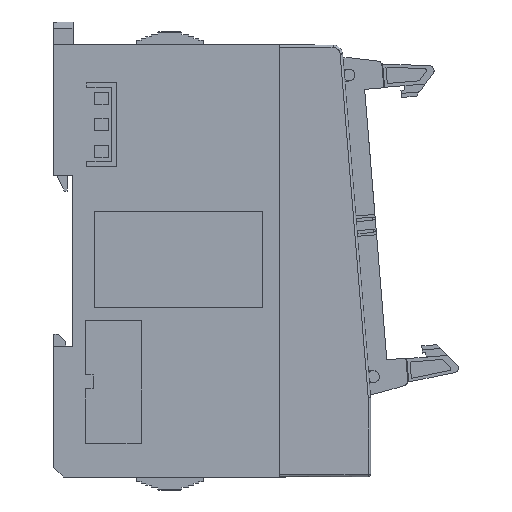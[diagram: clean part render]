
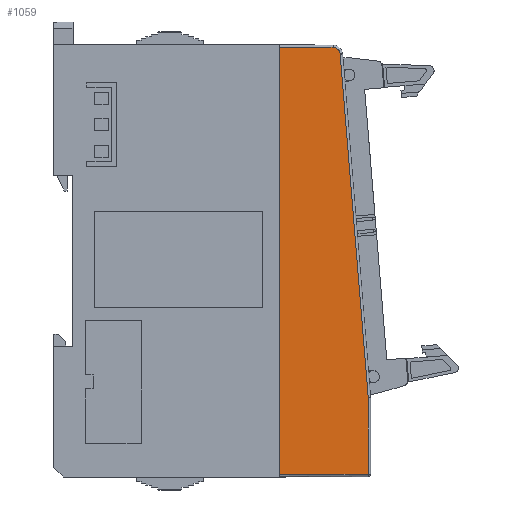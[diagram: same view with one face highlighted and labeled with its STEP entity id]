
A CAD part, front view. The second image highlights one B-rep face of the part: STEP entity #1059.
In plain terms, the highlighted planar face has unit normal (0.005, -1, 0).
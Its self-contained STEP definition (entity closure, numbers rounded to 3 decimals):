
#182=B_SPLINE_CURVE_WITH_KNOTS('',3,(#40820,#40821,#40822,#40823,#40824,
#40825,#40826,#40827),.UNSPECIFIED.,.F.,.F.,(4,1,1,1,1,4),(0.,0.2,0.4,0.6,
0.8,1.),.UNSPECIFIED.);
#1059=ADVANCED_FACE('',(#4169),#2687,.T.);
#2687=PLANE('',#29989);
#4169=FACE_OUTER_BOUND('',#5795,.T.);
#5795=EDGE_LOOP('',(#8664,#8665,#8666,#8667,#8668,#8669));
#8664=ORIENTED_EDGE('',*,*,#18777,.T.);
#8665=ORIENTED_EDGE('',*,*,#18779,.F.);
#8666=ORIENTED_EDGE('',*,*,#18780,.F.);
#8667=ORIENTED_EDGE('',*,*,#18781,.F.);
#8668=ORIENTED_EDGE('',*,*,#18732,.T.);
#8669=ORIENTED_EDGE('',*,*,#18782,.F.);
#15931=VERTEX_POINT('',#40719);
#15933=VERTEX_POINT('',#40722);
#15964=VERTEX_POINT('',#40811);
#15965=VERTEX_POINT('',#40815);
#15966=VERTEX_POINT('',#40819);
#15967=VERTEX_POINT('',#40828);
#18732=EDGE_CURVE('',#15933,#15931,#22818,.T.);
#18777=EDGE_CURVE('',#15965,#15964,#22851,.T.);
#18779=EDGE_CURVE('',#15966,#15964,#22852,.T.);
#18780=EDGE_CURVE('',#15967,#15966,#182,.T.);
#18781=EDGE_CURVE('',#15933,#15967,#22853,.T.);
#18782=EDGE_CURVE('',#15965,#15931,#22854,.T.);
#22818=LINE('',#40721,#26581);
#22851=LINE('',#40814,#26614);
#22852=LINE('',#40818,#26615);
#22853=LINE('',#40829,#26616);
#22854=LINE('',#40830,#26617);
#26581=VECTOR('',#32834,1.);
#26614=VECTOR('',#32915,1.);
#26615=VECTOR('',#32920,1.);
#26616=VECTOR('',#32921,1.);
#26617=VECTOR('',#32922,1.);
#29989=AXIS2_PLACEMENT_3D('',#40831,#32923,#32924);
#32834=DIRECTION('',(0.,0.,-1.));
#32915=DIRECTION('',(0.,0.,1.));
#32920=DIRECTION('',(0.081,0.,-0.997));
#32921=DIRECTION('',(1.,0.005,-0.005));
#32922=DIRECTION('',(-1.,-0.005,-0.005));
#32923=DIRECTION('',(0.005,-1.,0.));
#32924=DIRECTION('',(0.,0.,1.));
#40719=CARTESIAN_POINT('',(-247.544,-116.239,189.194));
#40721=CARTESIAN_POINT('',(-247.544,-116.239,278.194));
#40722=CARTESIAN_POINT('',(-247.544,-116.239,278.194));
#40811=CARTESIAN_POINT('',(-229.041,-116.142,205.174));
#40814=CARTESIAN_POINT('',(-229.041,-116.142,189.291));
#40815=CARTESIAN_POINT('',(-229.041,-116.142,189.291));
#40818=CARTESIAN_POINT('',(-234.885,-116.173,276.758));
#40819=CARTESIAN_POINT('',(-234.885,-116.173,276.758));
#40820=CARTESIAN_POINT('',(-236.372,-116.181,278.136));
#40821=CARTESIAN_POINT('',(-236.218,-116.18,278.135));
#40822=CARTESIAN_POINT('',(-235.927,-116.178,278.088));
#40823=CARTESIAN_POINT('',(-235.52,-116.176,277.892));
#40824=CARTESIAN_POINT('',(-235.192,-116.174,277.588));
#40825=CARTESIAN_POINT('',(-234.965,-116.173,277.197));
#40826=CARTESIAN_POINT('',(-234.898,-116.173,276.91));
#40827=CARTESIAN_POINT('',(-234.885,-116.173,276.758));
#40828=CARTESIAN_POINT('',(-236.372,-116.181,278.136));
#40829=CARTESIAN_POINT('',(-247.544,-116.239,278.194));
#40830=CARTESIAN_POINT('',(-229.041,-116.142,189.291));
#40831=CARTESIAN_POINT('',(-247.544,-116.239,279.817));
